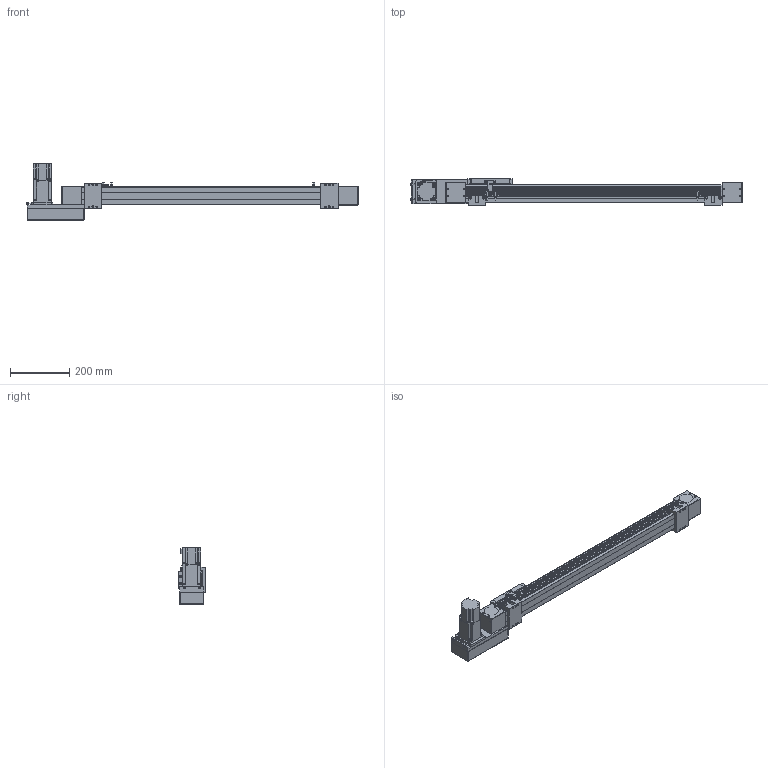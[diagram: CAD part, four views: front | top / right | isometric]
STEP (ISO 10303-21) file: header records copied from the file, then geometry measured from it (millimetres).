
FILE_DESCRIPTION(/* description */ ('STEP AP214'),/* implementation_level */ '2;1');
FILE_NAME(/* name */ 'SK60-P13-S700-L-T40-C1-N(0)',/* time_stamp */ '2023-04-06T04:04:17+02:00',/* author */ ('License CC BY-ND 4.0'),/* organization */ ('CADENAS'),/* preprocessor_version */ 'ST-DEVELOPER v19.3',/* originating_system */ 'PARTsolutions',/* authorisation */ ' ');
FILE_SCHEMA (('AUTOMOTIVE_DESIGN {1 0 10303 214 3 1 1}'));
Length unit declared in the file: millimetre
Products named in the file (10): SK60-P13-S700-L-T40-C1-N(0); PSC140-sensor; SK60-S450_seat; SK60-S450-BL-C1_slider; SK60_body3; SK60_body6; SK60-BL_body2; T40-p1; SK60-L_fb; SK60-S700-L-C1_body
Assembly tree (16 placements, depth 2):
  SK60-P13-S700-L-T40-C1-N(0)
    PSC140-sensor  x3
    SK60-S450_seat  x2
    SK60-S450-BL-C1_slider
    SK60_body3  x3
    SK60_body6  x2
    SK60-BL_body2  x2
    T40-p1
    SK60-L_fb
    SK60-S700-L-C1_body
Bounding box: 1120.5 x 90 x 189.7 mm (x, y, z)
Volume: 4618234.4 mm3; surface area: 597129.9 mm2
Topology: 16 solids, 16 shells, 810 faces, 2048 edges, 1349 vertices
Faces by surface type: plane 524, cylinder 262, cone 22, torus 2
Full cylindrical faces by diameter (mm): 2.8 x3, 3.3 x4, 4 x2, 4.5 x30, 4.6 x3, 4.917 x16, 5 x6, 5.478 x4, 5.5 x19, 6.5 x4, 7 x2, 8 x4, 8.5 x4, 9.988 x4, 10 x8, 14 x1, 47 x3, 50 x2
Entity records: 18655 total; most frequent: DIRECTION 3184, CARTESIAN_POINT 3150, ORIENTED_EDGE 2940, EDGE_CURVE 1470, AXIS2_PLACEMENT_3D 1068, LINE 1048, VECTOR 1048, VERTEX_POINT 1034
